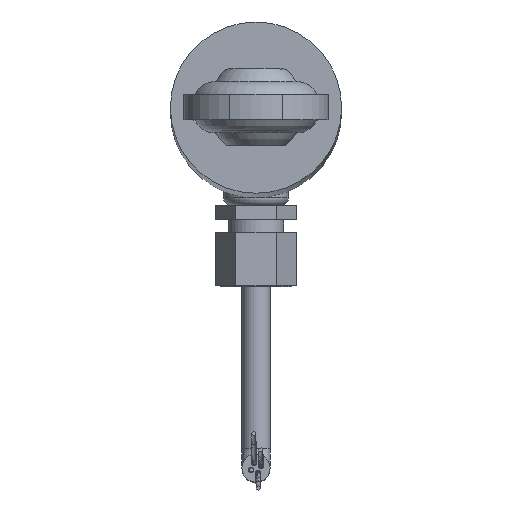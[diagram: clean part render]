
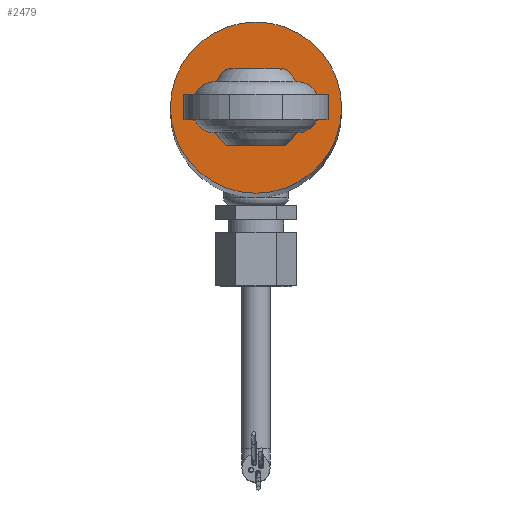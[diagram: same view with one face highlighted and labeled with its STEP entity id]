
A CAD part, top view. The second image highlights one B-rep face of the part: STEP entity #2479.
In plain terms, the highlighted planar face has unit normal (0, 0, 1).
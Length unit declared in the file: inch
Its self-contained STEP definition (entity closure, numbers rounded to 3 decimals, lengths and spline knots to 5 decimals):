
#195=FACE_BOUND('',#569,.T.);
#259=CIRCLE('',#2874,0.185);
#263=CIRCLE('',#2883,0.525);
#406=FACE_OUTER_BOUND('',#568,.T.);
#568=EDGE_LOOP('',(#1860));
#569=EDGE_LOOP('',(#1861));
#1057=VERTEX_POINT('',#4245);
#1061=VERTEX_POINT('',#4297);
#1336=EDGE_CURVE('',#1057,#1057,#259,.T.);
#1344=EDGE_CURVE('',#1061,#1061,#263,.T.);
#1860=ORIENTED_EDGE('',*,*,#1344,.T.);
#1861=ORIENTED_EDGE('',*,*,#1336,.T.);
#2220=PLANE('',#2884);
#2479=ADVANCED_FACE('',(#406,#195),#2220,.T.);
#2874=AXIS2_PLACEMENT_3D('',#4246,#3393,#3394);
#2883=AXIS2_PLACEMENT_3D('',#4298,#3412,#3413);
#2884=AXIS2_PLACEMENT_3D('',#4300,#3415,#3416);
#3393=DIRECTION('center_axis',(0.,0.,
-1.));
#3394=DIRECTION('ref_axis',(-1.,0.,0.));
#3412=DIRECTION('center_axis',(0.,0.,
1.));
#3413=DIRECTION('ref_axis',(-1.,0.,0.));
#3415=DIRECTION('center_axis',(0.,0.,
1.));
#3416=DIRECTION('ref_axis',(-1.,0.,0.));
#4245=CARTESIAN_POINT('',(0.185,0.,15.5));
#4246=CARTESIAN_POINT('Origin',(0.,0.,
15.5));
#4297=CARTESIAN_POINT('',(0.525,0.,15.5));
#4298=CARTESIAN_POINT('Origin',(0.,0.,
15.5));
#4300=CARTESIAN_POINT('Origin',(0.,0.,
15.5));
